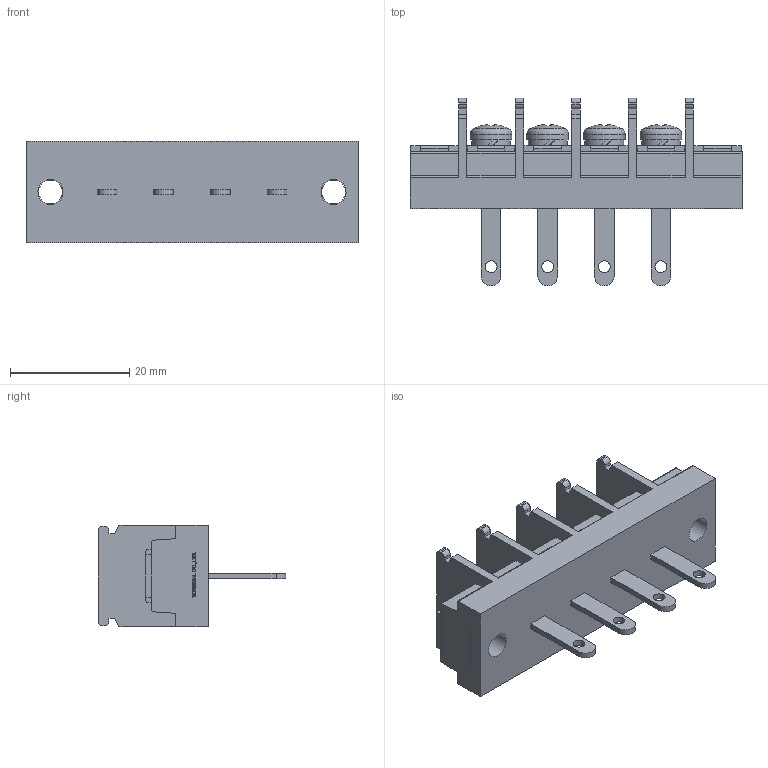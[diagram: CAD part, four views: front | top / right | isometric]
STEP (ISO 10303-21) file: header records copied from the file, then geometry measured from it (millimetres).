
FILE_DESCRIPTION(/* description */ ('Alibre Inc.'),/* implementation_level */ '2;1');
FILE_NAME(/* name */ 'export-B3723EB0-564D-4AD1-8242-E2E0F7574B13',/* time_stamp */ '2020-11-07T15:34:33+09:00',/* author */ (''),/* organization */ (''),/* preprocessor_version */ 'ST-DEVELOPER v17',/* originating_system */ 'Alibre',/* authorisation */ '');
FILE_SCHEMA (('CONFIG_CONTROL_DESIGN'));
Length unit declared in the file: millimetre
Bounding box: 55.7 x 31.5 x 17 mm (x, y, z)
Volume: 9679.2 mm3; surface area: 6625.8 mm2
Topology: 1 solids, 5 shells, 784 faces, 2140 edges, 1422 vertices
Faces by surface type: plane 564, bspline 104, cylinder 84, cone 20, torus 8, sphere 4
Full cylindrical faces by diameter (mm): 2 x4, 4 x10, 4.2 x2, 6.5 x4, 7 x4
Entity records: 23791 total; most frequent: CARTESIAN_POINT 5282, ORIENTED_EDGE 4172, DIRECTION 2890, EDGE_CURVE 2086, VECTOR 1514, LINE 1514, VERTEX_POINT 1400, AXIS2_PLACEMENT_3D 960
